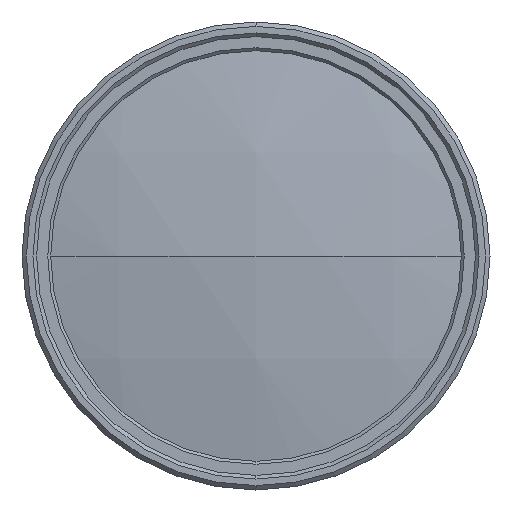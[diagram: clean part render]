
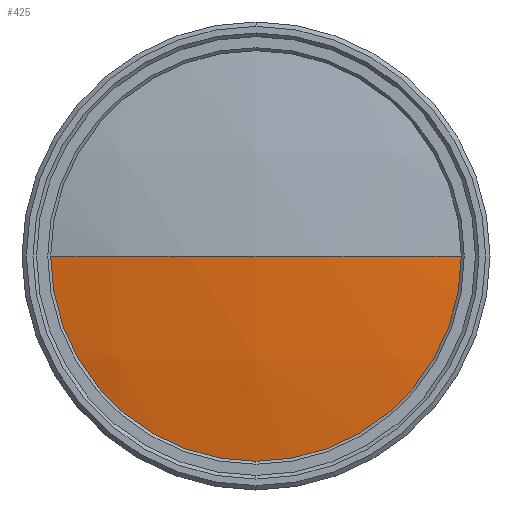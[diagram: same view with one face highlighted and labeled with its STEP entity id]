
A CAD part, left-side view. The second image highlights one B-rep face of the part: STEP entity #425.
In plain terms, the highlighted spherical face has radius 70.6 mm.
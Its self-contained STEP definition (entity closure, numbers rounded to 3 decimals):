
#26 = CARTESIAN_POINT ( 'NONE',  ( -140.35, 0., 0. ) ) ;
#27 = DIRECTION ( 'NONE',  ( -1., 0., 0. ) ) ;
#28 = DIRECTION ( 'NONE',  ( 0., 0., 1. ) ) ;
#74 = CARTESIAN_POINT ( 'NONE',  ( -71.16, 0., 0. ) ) ;
#75 = DIRECTION ( 'NONE',  ( 0., 0., 1. ) ) ;
#76 = DIRECTION ( 'NONE',  ( 1., 0., 0. ) ) ;
#78 = CARTESIAN_POINT ( 'NONE',  ( -71.16, 0., 0. ) ) ;
#79 = DIRECTION ( 'NONE',  ( 0., 0., -1. ) ) ;
#80 = DIRECTION ( 'NONE',  ( 0., 1., 0. ) ) ;
#94 = CARTESIAN_POINT ( 'NONE',  ( -140.35, 0., 0. ) ) ;
#95 = DIRECTION ( 'NONE',  ( -1., 0., 0. ) ) ;
#96 = DIRECTION ( 'NONE',  ( 0., 0., 1. ) ) ;
#274 = ORIENTED_EDGE ( 'NONE', *, *, #1858, .T. ) ;
#304 = ORIENTED_EDGE ( 'NONE', *, *, #1832, .T. ) ;
#309 = ORIENTED_EDGE ( 'NONE', *, *, #1850, .F. ) ;
#359 = VERTEX_POINT ( 'NONE', #1028 ) ;
#401 = VERTEX_POINT ( 'NONE', #869 ) ;
#425 = ADVANCED_FACE ( 'NONE', ( #1630 ), #1628, .T. ) ;
#524 = ORIENTED_EDGE ( 'NONE', *, *, #1852, .T. ) ;
#564 = VERTEX_POINT ( 'NONE', #895 ) ;
#690 = DIRECTION ( 'NONE',  ( 0., 1., 0. ) ) ;
#694 = CARTESIAN_POINT ( 'NONE',  ( -71.16, 0., 0. ) ) ;
#702 = DIRECTION ( 'NONE',  ( 0., 0., -1. ) ) ;
#864 = CARTESIAN_POINT ( 'NONE',  ( -140.35, -14.04, 0. ) ) ;
#869 = CARTESIAN_POINT ( 'NONE',  ( -140.35, 0., -14.04 ) ) ;
#895 = CARTESIAN_POINT ( 'NONE',  ( -140.35, 14.04, 0. ) ) ;
#1028 = CARTESIAN_POINT ( 'NONE',  ( -141.76, 0., 0. ) ) ;
#1087 = EDGE_LOOP ( 'NONE', ( #274, #304, #524, #309 ) ) ;
#1340 = CIRCLE ( 'NONE', #2012, 14.04 ) ;
#1363 = CIRCLE ( 'NONE', #2025, 70.6 ) ;
#1364 = CIRCLE ( 'NONE', #2024, 70.6 ) ;
#1374 = CIRCLE ( 'NONE', #2030, 14.04 ) ;
#1458 = VERTEX_POINT ( 'NONE', #864 ) ;
#1628 = SPHERICAL_SURFACE ( 'NONE', #1923, 70.6 ) ;
#1630 = FACE_OUTER_BOUND ( 'NONE', #1087, .T. ) ;
#1832 = EDGE_CURVE ( 'NONE', #401, #1458, #1340, .T. ) ;
#1850 = EDGE_CURVE ( 'NONE', #564, #359, #1364, .T. ) ;
#1852 = EDGE_CURVE ( 'NONE', #1458, #359, #1363, .T. ) ;
#1858 = EDGE_CURVE ( 'NONE', #564, #401, #1374, .T. ) ;
#1923 = AXIS2_PLACEMENT_3D ( 'NONE', #694, #702, #690 ) ;
#2012 = AXIS2_PLACEMENT_3D ( 'NONE', #26, #27, #28 ) ;
#2024 = AXIS2_PLACEMENT_3D ( 'NONE', #74, #75, #76 ) ;
#2025 = AXIS2_PLACEMENT_3D ( 'NONE', #78, #79, #80 ) ;
#2030 = AXIS2_PLACEMENT_3D ( 'NONE', #94, #95, #96 ) ;
